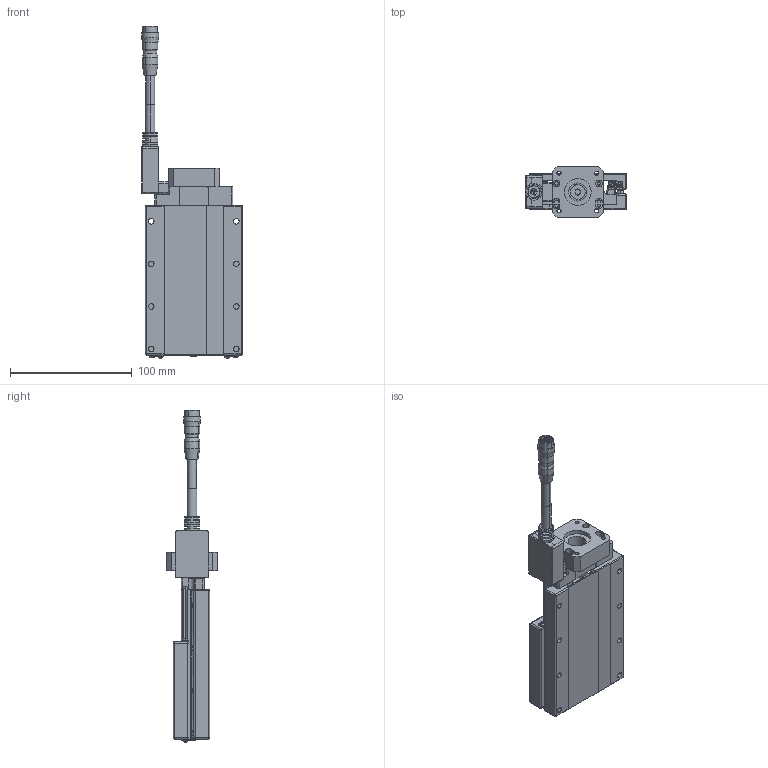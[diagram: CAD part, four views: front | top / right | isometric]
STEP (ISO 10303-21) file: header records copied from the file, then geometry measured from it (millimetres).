
FILE_DESCRIPTION (( 'STEP AP203' ), '1' );
FILE_NAME ('CXS8050(42框無馬達).STEP', '2023-12-25T08:56:51', ( '' ), ( '' ), 'SwSTEP 2.0', 'SolidWorks 2019', '' );
FILE_SCHEMA (( 'CONFIG_CONTROL_DESIGN' ));
Length unit declared in the file: millimetre
Products named in the file (5): Group2^CXS8050(42框無馬達)_defeature_GMT; HR10A-10J-12P; CXS50-G42_GMT; CXS8050(42框無馬達); Group1^CXS8050(42框無馬達)_defeature_GMT
Assembly tree (4 placements, depth 2):
  CXS8050(42框無馬達)
    Group1^CXS8050(42框無馬達)_defeature_GMT
    Group2^CXS8050(42框無馬達)_defeature_GMT
    HR10A-10J-12P
    CXS50-G42_GMT
Bounding box: 83 x 42 x 273.12 mm (x, y, z)
Volume: 74526.4 mm3; surface area: 87650.5 mm2
Topology: 10 solids, 13 shells, 1954 faces, 4949 edges, 3098 vertices
Faces by surface type: plane 999, cylinder 528, cone 207, sphere 140, torus 41, bspline 39
Entity records: 61647 total; most frequent: CARTESIAN_POINT 13276, DIRECTION 10388, ORIENTED_EDGE 9798, EDGE_CURVE 4899, AXIS2_PLACEMENT_3D 3883, VERTEX_POINT 3098, VECTOR 2622, LINE 2622
